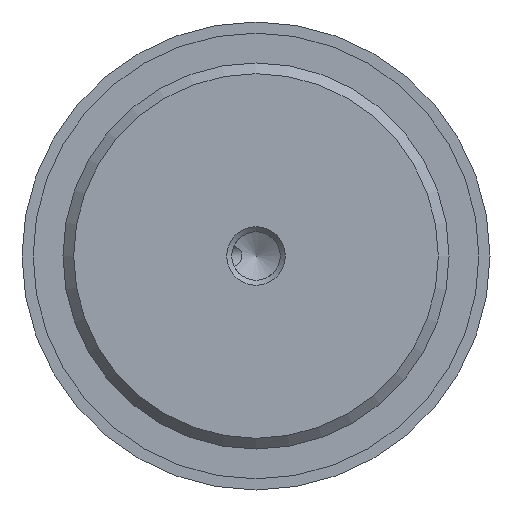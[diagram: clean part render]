
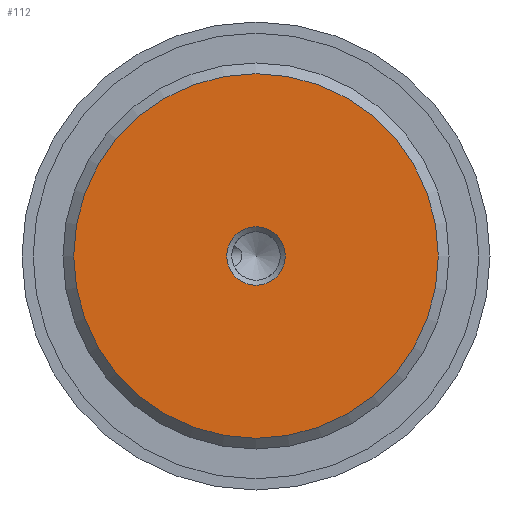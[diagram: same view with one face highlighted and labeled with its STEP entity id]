
A CAD part, front view. The second image highlights one B-rep face of the part: STEP entity #112.
In plain terms, the highlighted planar face has unit normal (0, -1, 0).
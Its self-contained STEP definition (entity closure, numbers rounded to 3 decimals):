
#112 = ADVANCED_FACE( '', ( #208, #209 ), #210, .F. );
#208 = FACE_BOUND( '', #330, .T. );
#209 = FACE_OUTER_BOUND( '', #331, .T. );
#210 = PLANE( '', #332 );
#330 = EDGE_LOOP( '', ( #652 ) );
#331 = EDGE_LOOP( '', ( #653 ) );
#332 = AXIS2_PLACEMENT_3D( '', #654, #655, #656 );
#652 = ORIENTED_EDGE( '', *, *, #874, .F. );
#653 = ORIENTED_EDGE( '', *, *, #876, .T. );
#654 = CARTESIAN_POINT( '', ( 15.58, 0., 0. ) );
#655 = DIRECTION( '', ( 0., 1., 0. ) );
#656 = DIRECTION( '', ( 0., 0., 1. ) );
#874 = EDGE_CURVE( '', #1066, #1066, #1067, .T. );
#876 = EDGE_CURVE( '', #1070, #1070, #1071, .T. );
#1066 = VERTEX_POINT( '', #1467 );
#1067 = CIRCLE( '', #1468, 2.5 );
#1070 = VERTEX_POINT( '', #1471 );
#1071 = CIRCLE( '', #1472, 15.58 );
#1467 = CARTESIAN_POINT( '', ( 2.5, 0., 0. ) );
#1468 = AXIS2_PLACEMENT_3D( '', #1603, #1604, #1605 );
#1471 = CARTESIAN_POINT( '', ( 0., 0., -15.58 ) );
#1472 = AXIS2_PLACEMENT_3D( '', #1609, #1610, #1611 );
#1603 = CARTESIAN_POINT( '', ( 0., 0., 0. ) );
#1604 = DIRECTION( '', ( 0., -1., 0. ) );
#1605 = DIRECTION( '', ( 1., 0., 0. ) );
#1609 = CARTESIAN_POINT( '', ( 0., 0., 0. ) );
#1610 = DIRECTION( '', ( 0., -1., 0. ) );
#1611 = DIRECTION( '', ( 0., 0., -1. ) );
